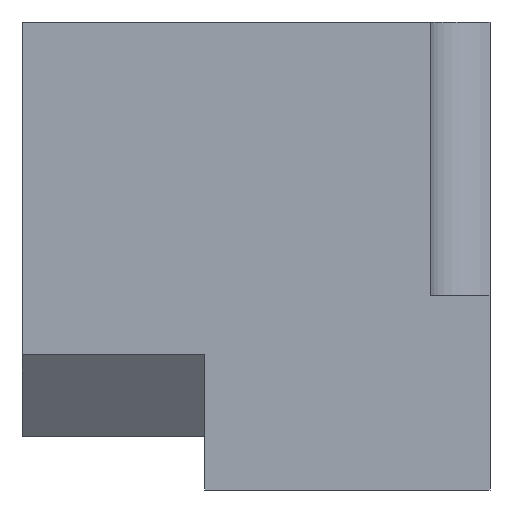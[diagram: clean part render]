
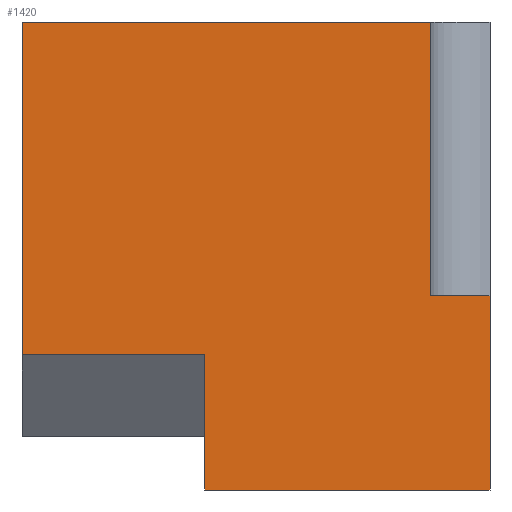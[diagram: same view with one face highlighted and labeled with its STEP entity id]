
A CAD part, front view. The second image highlights one B-rep face of the part: STEP entity #1420.
In plain terms, the highlighted planar face has unit normal (0, -1, 0).
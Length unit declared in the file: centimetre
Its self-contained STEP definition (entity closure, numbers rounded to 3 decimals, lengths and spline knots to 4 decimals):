
#11 = VECTOR ( 'NONE', #225, 100. ) ;
#225 = DIRECTION ( 'NONE',  ( 1., 0., 0. ) ) ;
#243 = CARTESIAN_POINT ( 'NONE',  ( 1000., 0., 1000. ) ) ;
#296 = CARTESIAN_POINT ( 'NONE',  ( 872.6415, 0., 415.336 ) ) ;
#299 = CARTESIAN_POINT ( 'NONE',  ( 0., 0., 1000. ) ) ;
#322 = DIRECTION ( 'NONE',  ( 1., 0., 0. ) ) ;
#334 = EDGE_CURVE ( 'NONE', #2452, #2988, #2014, .T. ) ;
#428 = VERTEX_POINT ( 'NONE', #296 ) ;
#536 = LINE ( 'NONE', #807, #1296 ) ;
#590 = CARTESIAN_POINT ( 'NONE',  ( 0., 0., 1000. ) ) ;
#615 = VERTEX_POINT ( 'NONE', #1418 ) ;
#641 = EDGE_CURVE ( 'NONE', #428, #2469, #2689, .T. ) ;
#736 = CARTESIAN_POINT ( 'NONE',  ( 390.0457, 0., 0. ) ) ;
#749 = LINE ( 'NONE', #1574, #2764 ) ;
#807 = CARTESIAN_POINT ( 'NONE',  ( 390.0457, 0., 288.6126 ) ) ;
#819 = CARTESIAN_POINT ( 'NONE',  ( 1000., 0., 415.336 ) ) ;
#851 = CARTESIAN_POINT ( 'NONE',  ( 0., 0., 1000. ) ) ;
#871 = DIRECTION ( 'NONE',  ( 0., 0., 1. ) ) ;
#888 = ORIENTED_EDGE ( 'NONE', *, *, #641, .F. ) ;
#986 = CARTESIAN_POINT ( 'NONE',  ( 0., 0., 1000. ) ) ;
#995 = DIRECTION ( 'NONE',  ( 0., 0., -1. ) ) ;
#1038 = ORIENTED_EDGE ( 'NONE', *, *, #2100, .F. ) ;
#1115 = DIRECTION ( 'NONE',  ( 0., 1., 0. ) ) ;
#1154 = ORIENTED_EDGE ( 'NONE', *, *, #2348, .F. ) ;
#1296 = VECTOR ( 'NONE', #2639, 100. ) ;
#1318 = LINE ( 'NONE', #2359, #11 ) ;
#1344 = VECTOR ( 'NONE', #995, 100. ) ;
#1365 = CARTESIAN_POINT ( 'NONE',  ( 0., 0., 415.336 ) ) ;
#1380 = VECTOR ( 'NONE', #3326, 100. ) ;
#1418 = CARTESIAN_POINT ( 'NONE',  ( 1000., 0., 0. ) ) ;
#1420 = ADVANCED_FACE ( 'NONE', ( #3202 ), #3216, .F. ) ;
#1506 = AXIS2_PLACEMENT_3D ( 'NONE', #590, #1115, #871 ) ;
#1573 = VERTEX_POINT ( 'NONE', #736 ) ;
#1574 = CARTESIAN_POINT ( 'NONE',  ( 872.6415, 0., 415.336 ) ) ;
#1654 = LINE ( 'NONE', #851, #1950 ) ;
#1700 = CARTESIAN_POINT ( 'NONE',  ( 872.6415, 0., 1000. ) ) ;
#1702 = ORIENTED_EDGE ( 'NONE', *, *, #334, .T. ) ;
#1727 = ORIENTED_EDGE ( 'NONE', *, *, #2304, .F. ) ;
#1929 = ORIENTED_EDGE ( 'NONE', *, *, #2137, .T. ) ;
#1950 = VECTOR ( 'NONE', #2961, 100. ) ;
#1972 = VERTEX_POINT ( 'NONE', #2474 ) ;
#2014 = LINE ( 'NONE', #986, #1380 ) ;
#2040 = CARTESIAN_POINT ( 'NONE',  ( 390.0457, 0., 288.6126 ) ) ;
#2060 = CARTESIAN_POINT ( 'NONE',  ( 0., 0., 288.6126 ) ) ;
#2100 = EDGE_CURVE ( 'NONE', #2469, #615, #2793, .T. ) ;
#2110 = VECTOR ( 'NONE', #322, 100. ) ;
#2137 = EDGE_CURVE ( 'NONE', #1573, #615, #1318, .T. ) ;
#2209 = EDGE_LOOP ( 'NONE', ( #888, #2792, #2531, #1702, #1154, #1727, #1929, #1038 ) ) ;
#2289 = EDGE_CURVE ( 'NONE', #428, #2570, #749, .T. ) ;
#2304 = EDGE_CURVE ( 'NONE', #1573, #1972, #536, .T. ) ;
#2348 = EDGE_CURVE ( 'NONE', #1972, #2988, #2605, .T. ) ;
#2359 = CARTESIAN_POINT ( 'NONE',  ( 0., 0., 0. ) ) ;
#2452 = VERTEX_POINT ( 'NONE', #299 ) ;
#2469 = VERTEX_POINT ( 'NONE', #819 ) ;
#2474 = CARTESIAN_POINT ( 'NONE',  ( 390.0457, 0., 288.6126 ) ) ;
#2531 = ORIENTED_EDGE ( 'NONE', *, *, #2858, .F. ) ;
#2570 = VERTEX_POINT ( 'NONE', #1700 ) ;
#2605 = LINE ( 'NONE', #2040, #3045 ) ;
#2639 = DIRECTION ( 'NONE',  ( 0., 0., 1. ) ) ;
#2689 = LINE ( 'NONE', #1365, #2110 ) ;
#2764 = VECTOR ( 'NONE', #3155, 100. ) ;
#2792 = ORIENTED_EDGE ( 'NONE', *, *, #2289, .T. ) ;
#2793 = LINE ( 'NONE', #243, #1344 ) ;
#2858 = EDGE_CURVE ( 'NONE', #2452, #2570, #1654, .T. ) ;
#2961 = DIRECTION ( 'NONE',  ( 1., 0., 0. ) ) ;
#2988 = VERTEX_POINT ( 'NONE', #2060 ) ;
#3045 = VECTOR ( 'NONE', #3086, 100. ) ;
#3086 = DIRECTION ( 'NONE',  ( -1., 0., 0. ) ) ;
#3155 = DIRECTION ( 'NONE',  ( 0., 0., 1. ) ) ;
#3202 = FACE_OUTER_BOUND ( 'NONE', #2209, .T. ) ;
#3216 = PLANE ( 'NONE',  #1506 ) ;
#3326 = DIRECTION ( 'NONE',  ( 0., 0., -1. ) ) ;
